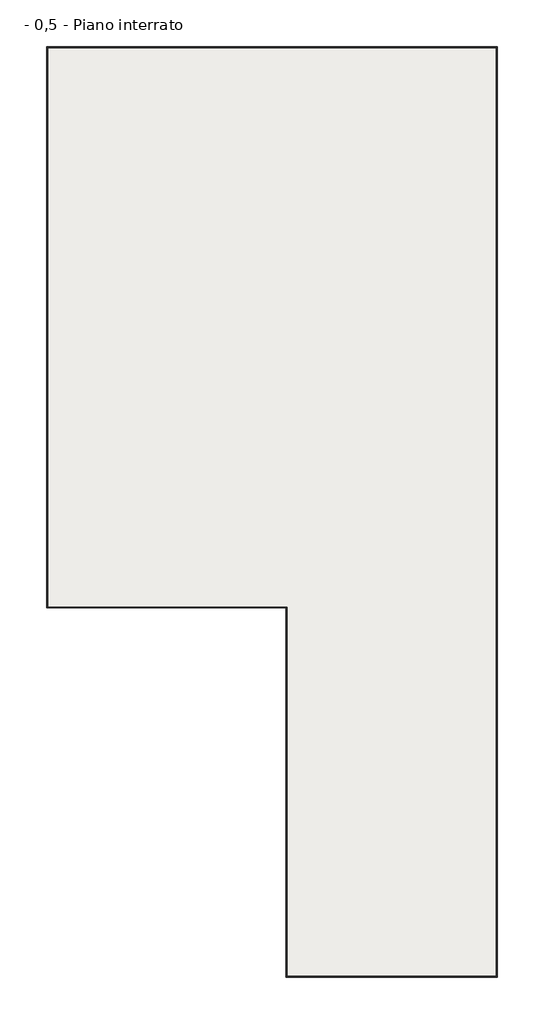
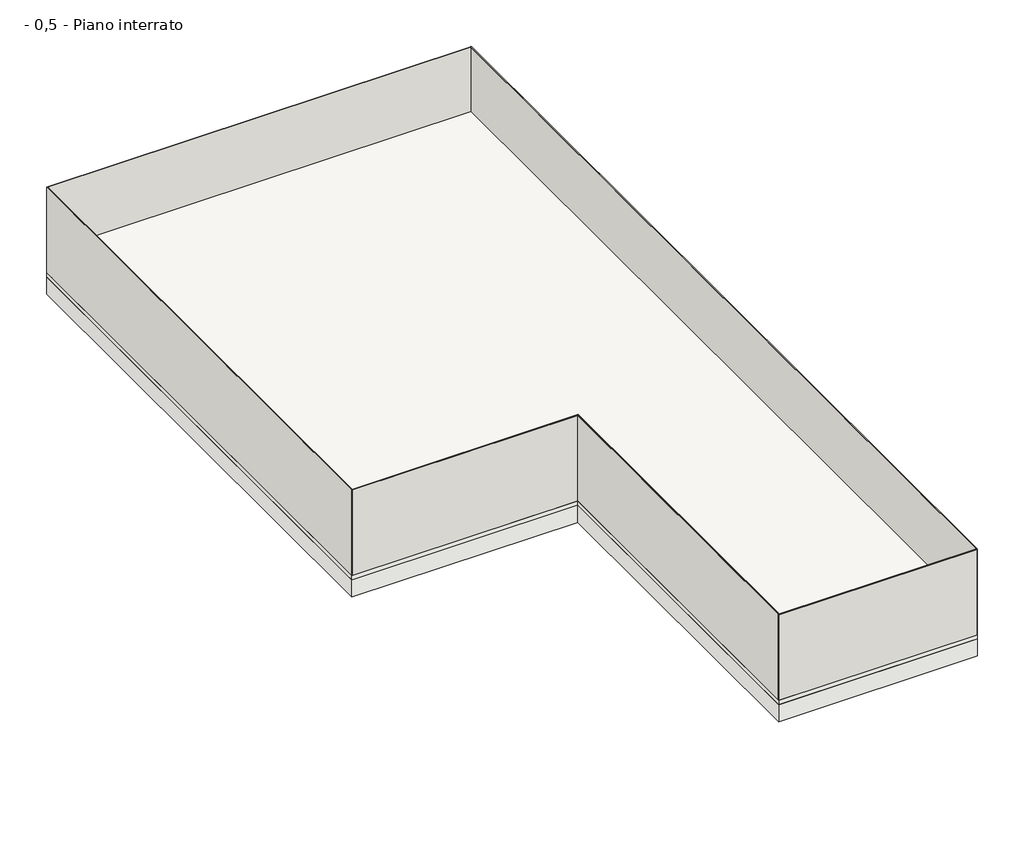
# One storey: 12 walls, 3 proxies, 3 slabs.
"""IFC4 building model written with IfcOpenShell, lengths in millimetres."""

from ifc_helpers import new_model, si_unit, frame, origin, place, context, project, spatial, polyline, outline, extrude, faceted_brep, element, save

model = new_model("IFC4")

# Units and contexts
model_context = context("Model", 3, world=origin())
ifc_project = project(units=[si_unit("LENGTHUNIT", "METRE", prefix="MILLI")], contexts=[model_context])

# Site, building, storey
site = spatial("IfcSite", under=ifc_project)
building = spatial("IfcBuilding", under=site)
storey = spatial("IfcBuildingStorey", under=building, Name="- 0,5 - Piano interrato", Elevation=-2001.0)

# Proxies
placement = place(None, origin())
element("IfcBuildingElementProxy", 1, Name="PLASTIVO 250 fascia orizzontale", ObjectType="PLASTIVO 250 fascia orizzontale", at=placement, inside=storey, context=model_context, shape_type="SweptSolid", body=[
    extrude(outline(polyline([(-9510.8494157, -6155.4646364), (-9710.8494157, -6155.4646364), (-9710.8494157, 5524.5353636), (-9510.8494157, 5524.5353636), (-9510.8494157, -6155.4646364)])), frame((0.0, 0.0, -2002.0), z_axis=(0.0, 0.0, 1.0), x_axis=(1.0, 0.0, 0.0)), (0.0, 0.0, 1.0), 1.0),
    extrude(outline(polyline([(-9730.8494157, 5334.5353636), (-9730.8494157, 5534.5353636), (-330.8494157, 5534.5353636), (-330.8494157, 5334.5353636), (-9730.8494157, 5334.5353636)])), frame((0.0, 0.0, -2002.0), z_axis=(0.0, 0.0, 1.0), x_axis=(1.0, 0.0, 0.0)), (0.0, 0.0, 1.0), 1.0),
    extrude(outline(polyline([(-9730.8494157, -6165.4646364), (-9730.8494157, -5965.4646364), (-4530.8494157, -5965.4646364), (-4730.8494157, -6165.4646364), (-9730.8494157, -6165.4646364)])), frame((0.0, 0.0, -2002.0), z_axis=(0.0, 0.0, 1.0), x_axis=(1.0, 0.0, 0.0)), (0.0, 0.0, 1.0), 1.0),
    extrude(outline(polyline([(-4530.8494157, -13865.4646364), (-4730.8494157, -13865.4646364), (-4730.8494157, -6165.4646364), (-4530.8494157, -5965.4646364), (-4530.8494157, -13865.4646364)])), frame((0.0, 0.0, -2002.0), z_axis=(0.0, 0.0, 1.0), x_axis=(1.0, 0.0, 0.0)), (0.0, 0.0, 1.0), 1.0),
    extrude(outline(polyline([(-350.8494157, -13645.4646364), (-350.8494157, -13845.4646364), (-4720.8494157, -13845.4646364), (-4720.8494157, -13645.4646364), (-350.8494157, -13645.4646364)])), frame((0.0, 0.0, -2002.0), z_axis=(0.0, 0.0, 1.0), x_axis=(1.0, 0.0, 0.0)), (0.0, 0.0, 1.0), 1.0),
    extrude(outline(polyline([(-550.8494157, 5514.5353636), (-350.8494157, 5514.5353636), (-350.8494157, -13855.4646364), (-550.8494157, -13855.4646364), (-550.8494157, 5514.5353636)])), frame((0.0, 0.0, -2002.0), z_axis=(0.0, 0.0, 1.0), x_axis=(1.0, 0.0, 0.0)), (0.0, 0.0, 1.0), 1.0),
])
element("IfcBuildingElementProxy", 2, Name="AKTI-VO 201 in platea", ObjectType="AKTI-VO 201 in platea", at=placement, inside=storey, context=model_context, shape_type="SweptSolid", body=[
    extrude(outline(polyline([(-9700.8494157, -6155.4646364), (-9710.8494157, -6155.4646364), (-9710.8494157, 5524.5353636), (-9700.8494157, 5524.5353636), (-9700.8494157, -6155.4646364)])), frame((0.0, 0.0, -2001.0), z_axis=(0.0, 0.0, 1.0), x_axis=(1.0, 0.0, 0.0)), (0.0, 0.0, 1.0), 10.0),
    extrude(outline(polyline([(-9710.8494157, 5504.5353636), (-9710.8494157, 5514.5353636), (-340.8494157, 5514.5353636), (-340.8494157, 5504.5353636), (-9710.8494157, 5504.5353636)])), frame((0.0, 0.0, -2001.0), z_axis=(0.0, 0.0, 1.0), x_axis=(1.0, 0.0, 0.0)), (0.0, 0.0, 1.0), 10.0),
    extrude(outline(polyline([(-9710.8494157, -6145.4646364), (-9710.8494157, -6135.4646364), (-4700.8494157, -6135.4646364), (-4710.8494157, -6145.4646364), (-9710.8494157, -6145.4646364)])), frame((0.0, 0.0, -2001.0), z_axis=(0.0, 0.0, 1.0), x_axis=(1.0, 0.0, 0.0)), (0.0, 0.0, 1.0), 10.0),
    extrude(outline(polyline([(-4700.8494157, -13845.4646364), (-4710.8494157, -13845.4646364), (-4710.8494157, -6145.4646364), (-4700.8494157, -6135.4646364), (-4700.8494157, -13845.4646364)])), frame((0.0, 0.0, -2001.0), z_axis=(0.0, 0.0, 1.0), x_axis=(1.0, 0.0, 0.0)), (0.0, 0.0, 1.0), 10.0),
    extrude(outline(polyline([(-350.8494157, -13835.4646364), (-350.8494157, -13845.4646364), (-4720.8494157, -13845.4646364), (-4720.8494157, -13835.4646364), (-350.8494157, -13835.4646364)])), frame((0.0, 0.0, -2001.0), z_axis=(0.0, 0.0, 1.0), x_axis=(1.0, 0.0, 0.0)), (0.0, 0.0, 1.0), 10.0),
    extrude(outline(polyline([(-360.8494157, 5514.5353636), (-350.8494157, 5514.5353636), (-350.8494157, -13855.4646364), (-360.8494157, -13855.4646364), (-360.8494157, 5514.5353636)])), frame((0.0, 0.0, -2001.0), z_axis=(0.0, 0.0, 1.0), x_axis=(1.0, 0.0, 0.0)), (0.0, 0.0, 1.0), 10.0),
])
element("IfcBuildingElementProxy", 3, Name="WT CONSTRUCTION VOLTECO", ObjectType="WT CONSTRUCTION VOLTECO", at=placement, inside=storey, context=model_context, shape_type="SweptSolid", body=[
    extrude(outline(polyline([(-4688.3494157, -13845.4646364), (-4713.3494157, -13845.4646364), (-4713.3494157, -6147.9646364), (-4688.3494157, -6122.9646364), (-4688.3494157, -13845.4646364)])), frame((0.0, 0.0, -1991.0), z_axis=(0.0, 0.0, 1.0), x_axis=(1.0, 0.0, 0.0)), (0.0, 0.0, 1.0), 15.0),
    extrude(outline(polyline([(-350.8494157, -13822.9646364), (-350.8494157, -13847.9646364), (-4720.8494157, -13847.9646364), (-4720.8494157, -13822.9646364), (-350.8494157, -13822.9646364)])), frame((0.0, 0.0, -1991.0), z_axis=(0.0, 0.0, 1.0), x_axis=(1.0, 0.0, 0.0)), (0.0, 0.0, 1.0), 15.0),
    extrude(outline(polyline([(-373.3494157, 5514.5353636), (-348.3494157, 5514.5353636), (-348.3494157, -13855.4646364), (-373.3494157, -13855.4646364), (-373.3494157, 5514.5353636)])), frame((0.0, 0.0, -1991.0), z_axis=(0.0, 0.0, 1.0), x_axis=(1.0, 0.0, 0.0)), (0.0, 0.0, 1.0), 15.0),
    extrude(outline(polyline([(-9710.8494157, 5492.0353636), (-9710.8494157, 5517.0353636), (-340.8494157, 5517.0353636), (-340.8494157, 5492.0353636), (-9710.8494157, 5492.0353636)])), frame((0.0, 0.0, -1991.0), z_axis=(0.0, 0.0, 1.0), x_axis=(1.0, 0.0, 0.0)), (0.0, 0.0, 1.0), 15.0),
    extrude(outline(polyline([(-9688.3494157, -6155.4646364), (-9713.3494157, -6155.4646364), (-9713.3494157, 5524.5353636), (-9688.3494157, 5524.5353636), (-9688.3494157, -6155.4646364)])), frame((0.0, 0.0, -1991.0), z_axis=(0.0, 0.0, 1.0), x_axis=(1.0, 0.0, 0.0)), (0.0, 0.0, 1.0), 15.0),
    extrude(outline(polyline([(-9710.8494157, -6147.9646364), (-9710.8494157, -6122.9646364), (-4688.3494157, -6122.9646364), (-4713.3494157, -6147.9646364), (-9710.8494157, -6147.9646364)])), frame((0.0, 0.0, -1991.0), z_axis=(0.0, 0.0, 1.0), x_axis=(1.0, 0.0, 0.0)), (0.0, 0.0, 1.0), 15.0),
])

# Slabs
element("IfcSlab", 4, ObjectType="Magrone - 10 cm", at=placement, inside=storey, context=model_context, shape_type="SweptSolid", body=[
    extrude(outline(polyline([(-4730.8494157, -6165.4646364), (-9730.8494157, -6165.4646364), (-9730.8494157, 5534.5353636), (-330.8494157, 5534.5353636), (-330.8494157, -13865.4646364), (-4730.8494157, -13865.4646364), (-4730.8494157, -6165.4646364)])), frame((0.0, 0.0, -2101.0), z_axis=(0.0, 0.0, 1.0), x_axis=(1.0, 0.0, 0.0)), (0.0, 0.0, 1.0), 100.0),
])
element("IfcSlab", 5, ObjectType="Platea - 50 cm", at=placement, inside=storey, context=model_context, shape_type="SweptSolid", body=[
    extrude(outline(polyline([(-9710.8494157, 5514.5353636), (-350.8494157, 5514.5353636), (-350.8494157, -13845.4646364), (-4710.8494157, -13845.4646364), (-4710.8494157, -6145.4646364), (-9710.8494157, -6145.4646364), (-9710.8494157, 5514.5353636)])), frame((0.0, 0.0, -2001.0), z_axis=(0.0, 0.0, 1.0), x_axis=(1.0, 0.0, 0.0)), (0.0, 0.0, 1.0), 500.0),
])
element("IfcSlab", 6, ObjectType="Terreno", at=placement, inside=storey, context=model_context, shape_type="SweptSolid", body=[
    extrude(outline(polyline([(-330.8494157, 5534.5353636), (-330.8494157, -13865.4646364), (-4730.8494157, -13865.4646364), (-4730.8494157, -6165.4646364), (-9730.8494157, -6165.4646364), (-9730.8494157, 5534.5353636), (-330.8494157, 5534.5353636)])), frame((0.0, 0.0, -2501.0), z_axis=(0.0, 0.0, 1.0), x_axis=(1.0, 0.0, 0.0)), (0.0, 0.0, 1.0), 400.0),
])

# Walls
element("IfcWall", 7, ObjectType="BI MORTAR PLASTER SEAL VOLTECO", at=placement, inside=storey, context=model_context, shape_type="Brep", body=[
    faceted_brep([(-9720.8494157, -6165.4646364, -2001.0), (-9720.8494157, -6155.4646364, -2001.0), (-9720.8494157, 5524.5353636, -2001.0), (-9720.8494157, 5534.5353636, -2001.0), (-9720.8494157, 5534.5353636, 0.0), (-9720.8494157, 5524.5353636, 0.0), (-9720.8494157, -6155.4646364, 0.0), (-9720.8494157, -6165.4646364, 0.0), (-9730.8494157, -6165.4646364, -2001.0), (-9730.8494157, -6165.4646364, 0.0), (-9730.8494157, 5534.5353636, 0.0), (-9730.8494157, 5534.5353636, -2001.0)], [[[0, 1, 2, 3, 4, 5, 6, 7]], [[8, 9, 10, 11]], [[3, 2, 1, 0, 8, 11]], [[7, 6, 5, 4, 10, 9]], [[4, 3, 11, 10]], [[0, 7, 9, 8]]]),
])
element("IfcWall", 8, ObjectType="BI MORTAR PLASTER SEAL VOLTECO", at=placement, inside=storey, context=model_context, shape_type="Brep", body=[
    faceted_brep([(-9720.8494157, 5524.5353636, -2001.0), (-9710.8494157, 5524.5353636, -2001.0), (-340.8494157, 5524.5353636, -2001.0), (-330.8494157, 5524.5353636, -2001.0), (-330.8494157, 5524.5353636, 0.0), (-340.8494157, 5524.5353636, 0.0), (-9710.8494157, 5524.5353636, 0.0), (-9720.8494157, 5524.5353636, 0.0), (-9720.8494157, 5534.5353636, -2001.0), (-9720.8494157, 5534.5353636, 0.0), (-330.8494157, 5534.5353636, 0.0), (-330.8494157, 5534.5353636, -2001.0)], [[[0, 1, 2, 3, 4, 5, 6, 7]], [[8, 9, 10, 11]], [[3, 2, 1, 0, 8, 11]], [[7, 6, 5, 4, 10, 9]], [[4, 3, 11, 10]], [[0, 7, 9, 8]]]),
])
element("IfcWall", 9, ObjectType="BI MORTAR PLASTER SEAL VOLTECO", at=placement, inside=storey, context=model_context, shape_type="Brep", body=[
    faceted_brep([(-340.8494157, 5524.5353636, -2001.0), (-340.8494157, 5514.5353636, -2001.0), (-340.8494157, -13855.4646364, -2001.0), (-340.8494157, -13865.4646364, -2001.0), (-340.8494157, -13865.4646364, 0.0), (-340.8494157, -13855.4646364, 0.0), (-340.8494157, 5514.5353636, 0.0), (-340.8494157, 5524.5353636, 0.0), (-330.8494157, 5524.5353636, -2001.0), (-330.8494157, 5524.5353636, 0.0), (-330.8494157, -13865.4646364, 0.0), (-330.8494157, -13865.4646364, -2001.0)], [[[0, 1, 2, 3, 4, 5, 6, 7]], [[8, 9, 10, 11]], [[3, 2, 1, 0, 8, 11]], [[7, 6, 5, 4, 10, 9]], [[4, 3, 11, 10]], [[0, 7, 9, 8]]]),
])
element("IfcWall", 10, ObjectType="BI MORTAR PLASTER SEAL VOLTECO", at=placement, inside=storey, context=model_context, shape_type="Brep", body=[
    faceted_brep([(-340.8494157, -13855.4646364, -2001.0), (-350.8494157, -13855.4646364, -2001.0), (-4720.8494157, -13855.4646364, -2001.0), (-4730.8494157, -13855.4646364, -2001.0), (-4730.8494157, -13855.4646364, 0.0), (-4720.8494157, -13855.4646364, 0.0), (-350.8494157, -13855.4646364, 0.0), (-340.8494157, -13855.4646364, 0.0), (-340.8494157, -13865.4646364, -2001.0), (-340.8494157, -13865.4646364, 0.0), (-4730.8494157, -13865.4646364, 0.0), (-4730.8494157, -13865.4646364, -2001.0)], [[[0, 1, 2, 3, 4, 5, 6, 7]], [[8, 9, 10, 11]], [[3, 2, 1, 0, 8, 11]], [[7, 6, 5, 4, 10, 9]], [[4, 3, 11, 10]], [[0, 7, 9, 8]]]),
])
element("IfcWall", 11, ObjectType="BI MORTAR PLASTER SEAL VOLTECO", at=placement, inside=storey, context=model_context, shape_type="Brep", body=[
    faceted_brep([(-4720.8494157, -13855.4646364, -2001.0), (-4720.8494157, -13845.4646364, -2001.0), (-4720.8494157, -6155.4646364, -2001.0), (-4720.8494157, -6155.4646364, 0.0), (-4720.8494157, -13845.4646364, 0.0), (-4720.8494157, -13855.4646364, 0.0), (-4730.8494157, -13855.4646364, -2001.0), (-4730.8494157, -13855.4646364, 0.0), (-4730.8494157, -6165.4646364, 0.0), (-4730.8494157, -6155.4646364, 0.0), (-4730.8494157, -6155.4646364, -2001.0), (-4730.8494157, -6165.4646364, -2001.0)], [[[0, 1, 2, 3, 4, 5]], [[6, 7, 8, 9, 10, 11]], [[2, 1, 0, 6, 11, 10]], [[5, 4, 3, 9, 8, 7]], [[0, 5, 7, 6]], [[3, 2, 10, 9]]]),
])
element("IfcWall", 12, ObjectType="BI MORTAR PLASTER SEAL VOLTECO", at=placement, inside=storey, context=model_context, shape_type="Brep", body=[
    faceted_brep([(-9720.8494157, -6165.4646364, -2001.0), (-4730.8494157, -6165.4646364, -2001.0), (-4730.8494157, -6165.4646364, 0.0), (-9720.8494157, -6165.4646364, 0.0), (-9720.8494157, -6155.4646364, -2001.0), (-9720.8494157, -6155.4646364, 0.0), (-9710.8494157, -6155.4646364, 0.0), (-4730.8494157, -6155.4646364, 0.0), (-4730.8494157, -6155.4646364, -2001.0), (-9710.8494157, -6155.4646364, -2001.0)], [[[0, 1, 2, 3]], [[4, 5, 6, 7, 8, 9]], [[1, 0, 4, 9, 8]], [[3, 2, 7, 6, 5]], [[2, 1, 8, 7]], [[0, 3, 5, 4]]]),
])
element("IfcWall", 13, ObjectType="BI MORTAR PLASTER SEAL VOLTECO", at=placement, inside=storey, context=model_context, shape_type="Brep", body=[
    faceted_brep([(-9710.8494157, 5524.5353636, 0.0), (-9710.8494157, 5514.5353636, 0.0), (-9710.8494157, -6145.4646364, 0.0), (-9710.8494157, -6155.4646364, 0.0), (-9710.8494157, -6155.4646364, -1976.0), (-9710.8494157, 5514.5353636, -1976.0), (-9710.8494157, 5517.0353636, -1976.0), (-9710.8494157, 5524.5353636, -1976.0), (-9710.8494157, -6155.4646364, -2001.0), (-9710.8494157, -6145.4646364, -2001.0), (-9710.8494157, 5514.5353636, -2001.0), (-9710.8494157, 5524.5353636, -2001.0), (-9710.8494157, 5524.5353636, -1991.0), (-9710.8494157, 5517.0353636, -1991.0), (-9710.8494157, 5514.5353636, -1991.0), (-9710.8494157, -6155.4646364, -1991.0), (-9720.8494157, 5524.5353636, -2001.0), (-9720.8494157, -6155.4646364, -2001.0), (-9720.8494157, -6155.4646364, 0.0), (-9720.8494157, 5524.5353636, 0.0), (-9713.3494157, 5524.5353636, -1976.0), (-9713.3494157, 5524.5353636, -1991.0), (-9713.3494157, -6155.4646364, -1991.0), (-9713.3494157, -6155.4646364, -1976.0)], [[[0, 1, 2, 3, 4, 5, 6, 7]], [[8, 9, 10, 11, 12, 13, 14, 15]], [[16, 17, 18, 19]], [[11, 10, 9, 8, 17, 16]], [[3, 2, 1, 0, 19, 18]], [[11, 16, 19, 0, 7, 20, 21, 12]], [[3, 18, 17, 8, 15, 22, 23, 4]], [[23, 20, 7, 6, 5, 4]], [[21, 22, 15, 14, 13, 12]], [[20, 23, 22, 21]]]),
])
element("IfcWall", 14, ObjectType="BI MORTAR PLASTER SEAL VOLTECO", at=placement, inside=storey, context=model_context, shape_type="Brep", body=[
    faceted_brep([(-9710.8494157, 5514.5353636, -2001.0), (-350.8494157, 5514.5353636, -2001.0), (-340.8494157, 5514.5353636, -2001.0), (-340.8494157, 5514.5353636, -1991.0), (-348.3494157, 5514.5353636, -1991.0), (-350.8494157, 5514.5353636, -1991.0), (-9710.8494157, 5514.5353636, -1991.0), (-340.8494157, 5514.5353636, 0.0), (-350.8494157, 5514.5353636, 0.0), (-9710.8494157, 5514.5353636, 0.0), (-9710.8494157, 5514.5353636, -1976.0), (-350.8494157, 5514.5353636, -1976.0), (-348.3494157, 5514.5353636, -1976.0), (-340.8494157, 5514.5353636, -1976.0), (-340.8494157, 5524.5353636, -2001.0), (-9710.8494157, 5524.5353636, -2001.0), (-9710.8494157, 5524.5353636, -1991.0), (-9710.8494157, 5524.5353636, -1976.0), (-9710.8494157, 5524.5353636, 0.0), (-340.8494157, 5524.5353636, 0.0), (-340.8494157, 5517.0353636, -1976.0), (-340.8494157, 5517.0353636, -1991.0), (-9710.8494157, 5517.0353636, -1991.0), (-9710.8494157, 5517.0353636, -1976.0)], [[[0, 1, 2, 3, 4, 5, 6]], [[7, 8, 9, 10, 11, 12, 13]], [[14, 15, 16, 17, 18, 19]], [[2, 1, 0, 15, 14]], [[9, 8, 7, 19, 18]], [[2, 14, 19, 7, 13, 20, 21, 3]], [[9, 18, 17, 16, 15, 0, 6, 22, 23, 10]], [[23, 20, 13, 12, 11, 10]], [[21, 22, 6, 5, 4, 3]], [[20, 23, 22, 21]]]),
])
element("IfcWall", 15, ObjectType="BI MORTAR PLASTER SEAL VOLTECO", at=placement, inside=storey, context=model_context, shape_type="Brep", body=[
    faceted_brep([(-350.8494157, 5514.5353636, -2001.0), (-350.8494157, -13845.4646364, -2001.0), (-350.8494157, -13855.4646364, -2001.0), (-350.8494157, -13855.4646364, -1991.0), (-350.8494157, -13847.9646364, -1991.0), (-350.8494157, -13845.4646364, -1991.0), (-350.8494157, 5514.5353636, -1991.0), (-350.8494157, -13855.4646364, 0.0), (-350.8494157, -13845.4646364, 0.0), (-350.8494157, 5514.5353636, 0.0), (-350.8494157, 5514.5353636, -1976.0), (-350.8494157, -13845.4646364, -1976.0), (-350.8494157, -13847.9646364, -1976.0), (-350.8494157, -13855.4646364, -1976.0), (-340.8494157, -13855.4646364, -2001.0), (-340.8494157, 5514.5353636, -2001.0), (-340.8494157, 5514.5353636, -1991.0), (-340.8494157, 5514.5353636, -1976.0), (-340.8494157, 5514.5353636, 0.0), (-340.8494157, -13855.4646364, 0.0), (-348.3494157, -13855.4646364, -1976.0), (-348.3494157, -13855.4646364, -1991.0), (-348.3494157, 5514.5353636, -1991.0), (-348.3494157, 5514.5353636, -1976.0)], [[[0, 1, 2, 3, 4, 5, 6]], [[7, 8, 9, 10, 11, 12, 13]], [[14, 15, 16, 17, 18, 19]], [[2, 1, 0, 15, 14]], [[9, 8, 7, 19, 18]], [[2, 14, 19, 7, 13, 20, 21, 3]], [[9, 18, 17, 16, 15, 0, 6, 22, 23, 10]], [[23, 20, 13, 12, 11, 10]], [[21, 22, 6, 5, 4, 3]], [[20, 23, 22, 21]]]),
])
element("IfcWall", 16, ObjectType="BI MORTAR PLASTER SEAL VOLTECO", at=placement, inside=storey, context=model_context, shape_type="Brep", body=[
    faceted_brep([(-350.8494157, -13845.4646364, -2001.0), (-4710.8494157, -13845.4646364, -2001.0), (-4720.8494157, -13845.4646364, -2001.0), (-4720.8494157, -13845.4646364, -1991.0), (-350.8494157, -13845.4646364, -1991.0), (-4720.8494157, -13845.4646364, 0.0), (-4710.8494157, -13845.4646364, 0.0), (-350.8494157, -13845.4646364, 0.0), (-350.8494157, -13845.4646364, -1976.0), (-4720.8494157, -13845.4646364, -1976.0), (-4720.8494157, -13855.4646364, -2001.0), (-350.8494157, -13855.4646364, -2001.0), (-350.8494157, -13855.4646364, -1991.0), (-350.8494157, -13855.4646364, -1976.0), (-350.8494157, -13855.4646364, 0.0), (-4720.8494157, -13855.4646364, 0.0), (-4720.8494157, -13847.9646364, -1976.0), (-4720.8494157, -13847.9646364, -1991.0), (-350.8494157, -13847.9646364, -1991.0), (-350.8494157, -13847.9646364, -1976.0)], [[[0, 1, 2, 3, 4]], [[5, 6, 7, 8, 9]], [[10, 11, 12, 13, 14, 15]], [[2, 1, 0, 11, 10]], [[7, 6, 5, 15, 14]], [[2, 10, 15, 5, 9, 16, 17, 3]], [[7, 14, 13, 12, 11, 0, 4, 18, 19, 8]], [[19, 16, 9, 8]], [[17, 18, 4, 3]], [[16, 19, 18, 17]]]),
])
element("IfcWall", 17, ObjectType="BI MORTAR PLASTER SEAL VOLTECO", at=placement, inside=storey, context=model_context, shape_type="Brep", body=[
    faceted_brep([(-4710.8494157, -13845.4646364, -2001.0), (-4710.8494157, -6145.4646364, -2001.0), (-4710.8494157, -6145.4646364, -1991.0), (-4710.8494157, -13845.4646364, -1991.0), (-4710.8494157, -6145.4646364, 0.0), (-4710.8494157, -13845.4646364, 0.0), (-4710.8494157, -13845.4646364, -1976.0), (-4710.8494157, -6145.4646364, -1976.0), (-4720.8494157, -6145.4646364, -2001.0), (-4720.8494157, -6155.4646364, -2001.0), (-4720.8494157, -13845.4646364, -2001.0), (-4720.8494157, -13845.4646364, -1991.0), (-4720.8494157, -13845.4646364, -1976.0), (-4720.8494157, -13845.4646364, 0.0), (-4720.8494157, -6155.4646364, 0.0), (-4720.8494157, -6145.4646364, 0.0), (-4720.8494157, -6145.4646364, -1976.0), (-4720.8494157, -6147.9646364, -1976.0), (-4720.8494157, -6147.9646364, -1991.0), (-4720.8494157, -6145.4646364, -1991.0), (-4713.3494157, -13845.4646364, -1991.0), (-4713.3494157, -13845.4646364, -1976.0), (-4713.3494157, -6147.9646364, -1976.0), (-4713.3494157, -6147.9646364, -1991.0)], [[[0, 1, 2, 3]], [[4, 5, 6, 7]], [[8, 9, 10, 11, 12, 13, 14, 15, 16, 17, 18, 19]], [[1, 0, 10, 9, 8]], [[5, 4, 15, 14, 13]], [[5, 13, 12, 11, 10, 0, 3, 20, 21, 6]], [[1, 8, 19, 2]], [[15, 4, 7, 16]], [[21, 22, 17, 16, 7, 6]], [[23, 20, 3, 2, 19, 18]], [[22, 21, 20, 23]], [[22, 23, 18, 17]]]),
])
element("IfcWall", 18, ObjectType="BI MORTAR PLASTER SEAL VOLTECO", at=placement, inside=storey, context=model_context, shape_type="Brep", body=[
    faceted_brep([(-9710.8494157, -6155.4646364, -2001.0), (-4720.8494157, -6155.4646364, -2001.0), (-4720.8494157, -6155.4646364, 0.0), (-9710.8494157, -6155.4646364, 0.0), (-9710.8494157, -6155.4646364, -1976.0), (-9710.8494157, -6155.4646364, -1991.0), (-4720.8494157, -6145.4646364, -2001.0), (-9710.8494157, -6145.4646364, -2001.0), (-9710.8494157, -6145.4646364, -1991.0), (-4720.8494157, -6145.4646364, -1991.0), (-9710.8494157, -6145.4646364, 0.0), (-4720.8494157, -6145.4646364, 0.0), (-4720.8494157, -6145.4646364, -1976.0), (-9710.8494157, -6145.4646364, -1976.0), (-4720.8494157, -6147.9646364, -1991.0), (-4720.8494157, -6147.9646364, -1976.0), (-9710.8494157, -6147.9646364, -1976.0), (-9710.8494157, -6147.9646364, -1991.0)], [[[0, 1, 2, 3, 4, 5]], [[6, 7, 8, 9]], [[10, 11, 12, 13]], [[1, 0, 7, 6]], [[3, 2, 11, 10]], [[2, 1, 6, 9, 14, 15, 12, 11]], [[0, 5, 4, 3, 10, 13, 16, 17, 8, 7]], [[17, 14, 9, 8]], [[15, 16, 13, 12]], [[16, 15, 14, 17]]]),
])

save(model, "model.ifc")
